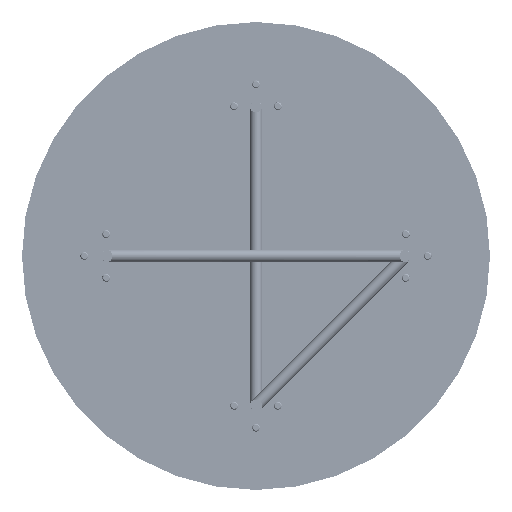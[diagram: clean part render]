
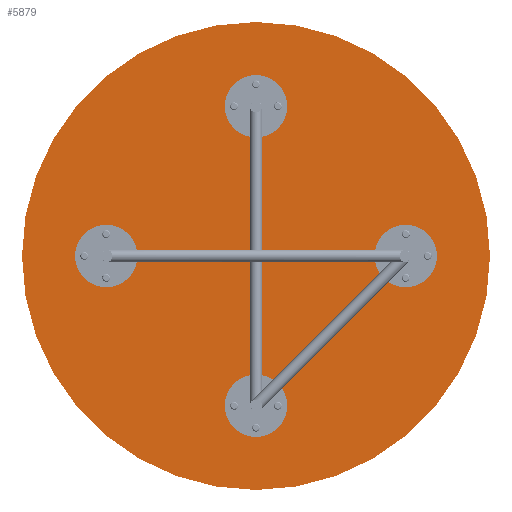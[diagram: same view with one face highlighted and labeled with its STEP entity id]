
A CAD part, front view. The second image highlights one B-rep face of the part: STEP entity #5879.
In plain terms, the highlighted planar face has unit normal (0, -1, 0).
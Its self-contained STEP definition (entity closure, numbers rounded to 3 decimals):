
#183 = DIRECTION ( 'NONE',  ( 0., 0., -1. ) ) ;
#426 = CIRCLE ( 'NONE', #14947, 50. ) ;
#541 = ORIENTED_EDGE ( 'NONE', *, *, #14615, .F. ) ;
#792 = CARTESIAN_POINT ( 'NONE',  ( 240., 0., 50. ) ) ;
#1264 = VERTEX_POINT ( 'NONE', #3083 ) ;
#1685 = AXIS2_PLACEMENT_3D ( 'NONE', #15639, #14472, #2255 ) ;
#1793 = VERTEX_POINT ( 'NONE', #3415 ) ;
#2183 = CARTESIAN_POINT ( 'NONE',  ( -240., 0., -50. ) ) ;
#2255 = DIRECTION ( 'NONE',  ( 0., 0., -1. ) ) ;
#2707 = AXIS2_PLACEMENT_3D ( 'NONE', #6441, #17257, #15920 ) ;
#3083 = CARTESIAN_POINT ( 'NONE',  ( 240., 0., -50. ) ) ;
#3105 = ORIENTED_EDGE ( 'NONE', *, *, #14131, .F. ) ;
#3121 = CIRCLE ( 'NONE', #16782, 50. ) ;
#3137 = DIRECTION ( 'NONE',  ( 0., 0., -1. ) ) ;
#3286 = EDGE_CURVE ( 'NONE', #1793, #12722, #3121, .T. ) ;
#3345 = CARTESIAN_POINT ( 'NONE',  ( 0., 0., -190. ) ) ;
#3400 = DIRECTION ( 'NONE',  ( 0., 1., 0. ) ) ;
#3415 = CARTESIAN_POINT ( 'NONE',  ( 0., 0., -290. ) ) ;
#3773 = CIRCLE ( 'NONE', #12594, 50. ) ;
#3819 = AXIS2_PLACEMENT_3D ( 'NONE', #14996, #4294, #3137 ) ;
#3987 = VERTEX_POINT ( 'NONE', #5971 ) ;
#4269 = VERTEX_POINT ( 'NONE', #792 ) ;
#4294 = DIRECTION ( 'NONE',  ( 0., -1., 0. ) ) ;
#4551 = PLANE ( 'NONE',  #15633 ) ;
#4943 = AXIS2_PLACEMENT_3D ( 'NONE', #17394, #3400, #14281 ) ;
#4982 = CIRCLE ( 'NONE', #2707, 50. ) ;
#5792 = CIRCLE ( 'NONE', #16361, 50. ) ;
#5821 = VERTEX_POINT ( 'NONE', #12683 ) ;
#5849 = CARTESIAN_POINT ( 'NONE',  ( 0., 0., -240. ) ) ;
#5878 = FACE_BOUND ( 'NONE', #7758, .T. ) ;
#5879 = ADVANCED_FACE ( 'NONE', ( #5878, #11440, #6055, #11349, #16771 ), #4551, .F. ) ;
#5971 = CARTESIAN_POINT ( 'NONE',  ( 0., 0., 290. ) ) ;
#6055 = FACE_BOUND ( 'NONE', #11792, .T. ) ;
#6202 = ORIENTED_EDGE ( 'NONE', *, *, #8240, .F. ) ;
#6315 = EDGE_CURVE ( 'NONE', #5821, #13204, #12217, .T. ) ;
#6372 = DIRECTION ( 'NONE',  ( 0., 1., 0. ) ) ;
#6441 = CARTESIAN_POINT ( 'NONE',  ( 240., 0., 0. ) ) ;
#7159 = DIRECTION ( 'NONE',  ( 0., 0., -1. ) ) ;
#7758 = EDGE_LOOP ( 'NONE', ( #3105, #541 ) ) ;
#8035 = DIRECTION ( 'NONE',  ( 0., -1., 0. ) ) ;
#8240 = EDGE_CURVE ( 'NONE', #12722, #1793, #9391, .T. ) ;
#8364 = EDGE_CURVE ( 'NONE', #3987, #17022, #15358, .T. ) ;
#8418 = EDGE_CURVE ( 'NONE', #12856, #13200, #14510, .T. ) ;
#8936 = EDGE_CURVE ( 'NONE', #13204, #5821, #13769, .T. ) ;
#9391 = CIRCLE ( 'NONE', #1685, 50. ) ;
#9652 = DIRECTION ( 'NONE',  ( 0., -1., 0. ) ) ;
#9737 = DIRECTION ( 'NONE',  ( 0., 0., -1. ) ) ;
#10004 = CARTESIAN_POINT ( 'NONE',  ( 0., 0., 0. ) ) ;
#10158 = ORIENTED_EDGE ( 'NONE', *, *, #10800, .F. ) ;
#10314 = ORIENTED_EDGE ( 'NONE', *, *, #15311, .F. ) ;
#10423 = EDGE_LOOP ( 'NONE', ( #10158, #17553 ) ) ;
#10501 = AXIS2_PLACEMENT_3D ( 'NONE', #16201, #6372, #10763 ) ;
#10763 = DIRECTION ( 'NONE',  ( 0., 0., 1. ) ) ;
#10800 = EDGE_CURVE ( 'NONE', #17022, #3987, #426, .T. ) ;
#11349 = FACE_BOUND ( 'NONE', #10423, .T. ) ;
#11440 = FACE_BOUND ( 'NONE', #12124, .T. ) ;
#11504 = DIRECTION ( 'NONE',  ( 0., -1., 0. ) ) ;
#11644 = CARTESIAN_POINT ( 'NONE',  ( 0., 0., 375. ) ) ;
#11792 = EDGE_LOOP ( 'NONE', ( #15985, #10314 ) ) ;
#11991 = CARTESIAN_POINT ( 'NONE',  ( 240., 0., 0. ) ) ;
#12124 = EDGE_LOOP ( 'NONE', ( #13685, #6202 ) ) ;
#12217 = CIRCLE ( 'NONE', #10501, 375. ) ;
#12257 = DIRECTION ( 'NONE',  ( 0., -1., 0. ) ) ;
#12594 = AXIS2_PLACEMENT_3D ( 'NONE', #17484, #8035, #13466 ) ;
#12622 = AXIS2_PLACEMENT_3D ( 'NONE', #15351, #9652, #183 ) ;
#12683 = CARTESIAN_POINT ( 'NONE',  ( 0., 0., -375. ) ) ;
#12710 = DIRECTION ( 'NONE',  ( 0., -1., 0. ) ) ;
#12722 = VERTEX_POINT ( 'NONE', #3345 ) ;
#12833 = ORIENTED_EDGE ( 'NONE', *, *, #6315, .F. ) ;
#12856 = VERTEX_POINT ( 'NONE', #2183 ) ;
#13200 = VERTEX_POINT ( 'NONE', #15634 ) ;
#13204 = VERTEX_POINT ( 'NONE', #11644 ) ;
#13466 = DIRECTION ( 'NONE',  ( 0., 0., -1. ) ) ;
#13685 = ORIENTED_EDGE ( 'NONE', *, *, #3286, .F. ) ;
#13769 = CIRCLE ( 'NONE', #4943, 375. ) ;
#14105 = DIRECTION ( 'NONE',  ( 0., 1., 0. ) ) ;
#14131 = EDGE_CURVE ( 'NONE', #1264, #4269, #4982, .T. ) ;
#14281 = DIRECTION ( 'NONE',  ( 0., 0., 1. ) ) ;
#14472 = DIRECTION ( 'NONE',  ( 0., -1., 0. ) ) ;
#14510 = CIRCLE ( 'NONE', #3819, 50. ) ;
#14615 = EDGE_CURVE ( 'NONE', #4269, #1264, #5792, .T. ) ;
#14947 = AXIS2_PLACEMENT_3D ( 'NONE', #15463, #12710, #7159 ) ;
#14996 = CARTESIAN_POINT ( 'NONE',  ( -240., 0., 0. ) ) ;
#15311 = EDGE_CURVE ( 'NONE', #13200, #12856, #3773, .T. ) ;
#15351 = CARTESIAN_POINT ( 'NONE',  ( 0., 0., 240. ) ) ;
#15358 = CIRCLE ( 'NONE', #12622, 50. ) ;
#15463 = CARTESIAN_POINT ( 'NONE',  ( 0., 0., 240. ) ) ;
#15633 = AXIS2_PLACEMENT_3D ( 'NONE', #10004, #14105, #16861 ) ;
#15634 = CARTESIAN_POINT ( 'NONE',  ( -240., 0., 50. ) ) ;
#15639 = CARTESIAN_POINT ( 'NONE',  ( 0., 0., -240. ) ) ;
#15920 = DIRECTION ( 'NONE',  ( 0., 0., -1. ) ) ;
#15985 = ORIENTED_EDGE ( 'NONE', *, *, #8418, .F. ) ;
#16182 = EDGE_LOOP ( 'NONE', ( #12833, #17240 ) ) ;
#16201 = CARTESIAN_POINT ( 'NONE',  ( 0., 0., 0. ) ) ;
#16361 = AXIS2_PLACEMENT_3D ( 'NONE', #11991, #12257, #9737 ) ;
#16656 = DIRECTION ( 'NONE',  ( 0., 0., -1. ) ) ;
#16771 = FACE_OUTER_BOUND ( 'NONE', #16182, .T. ) ;
#16782 = AXIS2_PLACEMENT_3D ( 'NONE', #5849, #11504, #16656 ) ;
#16861 = DIRECTION ( 'NONE',  ( 0., 0., 1. ) ) ;
#17022 = VERTEX_POINT ( 'NONE', #17378 ) ;
#17240 = ORIENTED_EDGE ( 'NONE', *, *, #8936, .F. ) ;
#17257 = DIRECTION ( 'NONE',  ( 0., -1., 0. ) ) ;
#17378 = CARTESIAN_POINT ( 'NONE',  ( 0., 0., 190. ) ) ;
#17394 = CARTESIAN_POINT ( 'NONE',  ( 0., 0., 0. ) ) ;
#17484 = CARTESIAN_POINT ( 'NONE',  ( -240., 0., 0. ) ) ;
#17553 = ORIENTED_EDGE ( 'NONE', *, *, #8364, .F. ) ;
